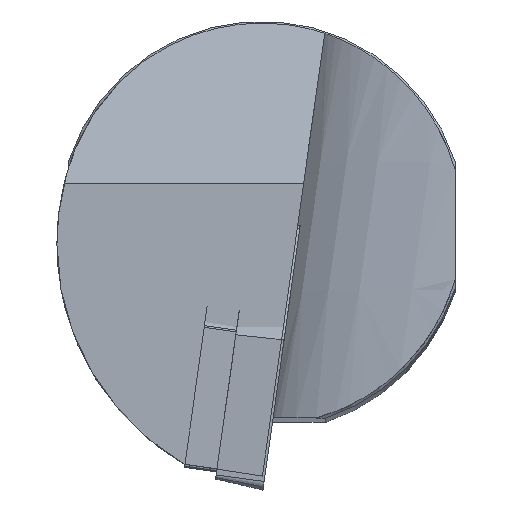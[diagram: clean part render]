
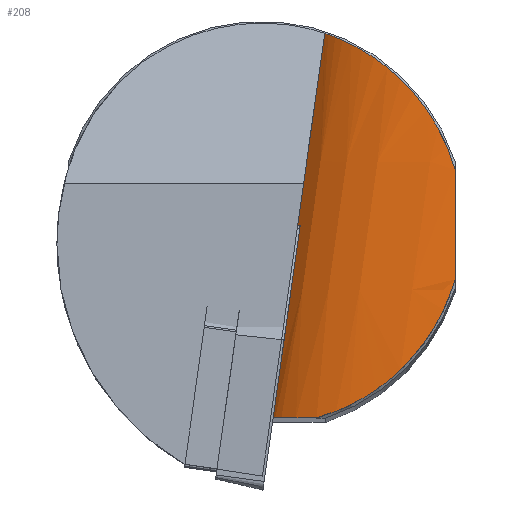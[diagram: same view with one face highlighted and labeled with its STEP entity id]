
A CAD part, top view. The second image highlights one B-rep face of the part: STEP entity #208.
In plain terms, the highlighted free-form (B-spline) face has degree [3, 3] with [4, 16] control points.
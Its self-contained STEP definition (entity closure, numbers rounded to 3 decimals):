
#95=B_SPLINE_SURFACE_WITH_KNOTS('',3,3,((#1336,#1337,#1338,#1339,#1340,#1341,
#1342,#1343,#1344,#1345,#1346,#1347,#1348,#1349,#1350,#1351),(#1352,#1353,
#1354,#1355,#1356,#1357,#1358,#1359,#1360,#1361,#1362,#1363,#1364,#1365,
#1366,#1367),(#1368,#1369,#1370,#1371,#1372,#1373,#1374,#1375,#1376,#1377,
#1378,#1379,#1380,#1381,#1382,#1383),(#1384,#1385,#1386,#1387,#1388,#1389,
#1390,#1391,#1392,#1393,#1394,#1395,#1396,#1397,#1398,#1399)),.UNSPECIFIED.,
 .F.,.F.,.F.,(4,4),(4,1,2,1,1,2,1,1,2,1,4),(0.,1.),(0.,0.14,0.25,0.28,0.42,
0.5,0.56,0.707,0.75,0.853,1.),.UNSPECIFIED.);
#105=B_SPLINE_CURVE_WITH_KNOTS('',3,(#1281,#1282,#1283,#1284,#1285,#1286,
#1287,#1288,#1289,#1290),.UNSPECIFIED.,.F.,.F.,(4,2,2,2,4),(0.,0.25,0.5,
0.75,1.),.UNSPECIFIED.);
#106=B_SPLINE_CURVE_WITH_KNOTS('',3,(#1308,#1309,#1310,#1311),.UNSPECIFIED.,
 .F.,.F.,(4,4),(0.,1.),.UNSPECIFIED.);
#107=B_SPLINE_CURVE_WITH_KNOTS('',3,(#1313,#1314,#1315,#1316,#1317,#1318,
#1319,#1320,#1321),.UNSPECIFIED.,.F.,.F.,(4,1,1,2,1,4),(0.,0.08,
0.447,0.526,0.814,1.),.UNSPECIFIED.);
#108=B_SPLINE_CURVE_WITH_KNOTS('',3,(#1323,#1324,#1325,#1326,#1327,#1328,
#1329,#1330),.UNSPECIFIED.,.F.,.F.,(4,2,2,4),(0.,0.25,0.5,1.),.UNSPECIFIED.);
#109=B_SPLINE_CURVE_WITH_KNOTS('',3,(#1332,#1333,#1334,#1335),.UNSPECIFIED.,
 .F.,.F.,(4,4),(0.,1.),.UNSPECIFIED.);
#166=FACE_OUTER_BOUND('',#293,.T.);
#208=ADVANCED_FACE('',(#166),#95,.T.);
#293=EDGE_LOOP('',(#473,#474,#475,#476,#477,#478));
#473=ORIENTED_EDGE('',*,*,#672,.T.);
#474=ORIENTED_EDGE('',*,*,#698,.T.);
#475=ORIENTED_EDGE('',*,*,#699,.F.);
#476=ORIENTED_EDGE('',*,*,#700,.T.);
#477=ORIENTED_EDGE('',*,*,#701,.F.);
#478=ORIENTED_EDGE('',*,*,#689,.T.);
#586=VERTEX_POINT('',#1233);
#587=VERTEX_POINT('',#1235);
#597=VERTEX_POINT('',#1291);
#605=VERTEX_POINT('',#1312);
#606=VERTEX_POINT('',#1322);
#607=VERTEX_POINT('',#1331);
#672=EDGE_CURVE('',#587,#586,#761,.T.);
#689=EDGE_CURVE('',#597,#587,#105,.T.);
#698=EDGE_CURVE('',#586,#605,#106,.T.);
#699=EDGE_CURVE('',#606,#605,#107,.T.);
#700=EDGE_CURVE('',#606,#607,#108,.T.);
#701=EDGE_CURVE('',#597,#607,#109,.T.);
#761=LINE('',#1234,#815);
#815=VECTOR('',#1024,1.);
#1024=DIRECTION('',(-0.139,-0.99,0.));
#1233=CARTESIAN_POINT('',(1.278,-16.201,-17.557));
#1234=CARTESIAN_POINT('',(-0.085,-25.9,-17.557));
#1235=CARTESIAN_POINT('',(6.19,18.755,-17.557));
#1281=CARTESIAN_POINT('',(19.,5.391,-40.33));
#1282=CARTESIAN_POINT('',(18.276,7.944,-39.84));
#1283=CARTESIAN_POINT('',(17.019,10.304,-39.031));
#1284=CARTESIAN_POINT('',(14.058,14.078,-36.48));
#1285=CARTESIAN_POINT('',(12.378,15.487,-34.736));
#1286=CARTESIAN_POINT('',(9.489,17.408,-30.557));
#1287=CARTESIAN_POINT('',(8.264,17.96,-28.131));
#1288=CARTESIAN_POINT('',(6.627,18.626,-23.016));
#1289=CARTESIAN_POINT('',(6.19,18.755,-20.291));
#1290=CARTESIAN_POINT('',(6.19,18.755,-17.557));
#1291=CARTESIAN_POINT('',(19.,5.391,-40.33));
#1308=CARTESIAN_POINT('',(1.278,-16.201,-17.557));
#1309=CARTESIAN_POINT('',(1.147,-17.13,-18.29));
#1310=CARTESIAN_POINT('',(1.049,-18.063,-19.024));
#1311=CARTESIAN_POINT('',(0.982,-19.,-19.755));
#1312=CARTESIAN_POINT('',(0.982,-19.,-19.755));
#1313=CARTESIAN_POINT('',(5.391,-19.,-31.874));
#1314=CARTESIAN_POINT('',(5.185,-19.,-31.579));
#1315=CARTESIAN_POINT('',(4.074,-19.,-29.909));
#1316=CARTESIAN_POINT('',(3.012,-19.,-27.807));
#1317=CARTESIAN_POINT('',(2.342,-19.,-25.976));
#1318=CARTESIAN_POINT('',(1.824,-19.,-24.462));
#1319=CARTESIAN_POINT('',(1.315,-19.,-22.483));
#1320=CARTESIAN_POINT('',(1.05,-19.,-20.519));
#1321=CARTESIAN_POINT('',(0.982,-19.,-19.755));
#1322=CARTESIAN_POINT('',(5.391,-19.,-31.874));
#1323=CARTESIAN_POINT('',(5.391,-19.,-31.874));
#1324=CARTESIAN_POINT('',(6.493,-18.687,-33.392));
#1325=CARTESIAN_POINT('',(7.771,-18.22,-34.754));
#1326=CARTESIAN_POINT('',(10.457,-16.823,-37.055));
#1327=CARTESIAN_POINT('',(11.863,-15.888,-37.996));
#1328=CARTESIAN_POINT('',(15.785,-12.378,-40.156));
#1329=CARTESIAN_POINT('',(17.964,-9.041,-40.76));
#1330=CARTESIAN_POINT('',(19.,-5.391,-40.957));
#1331=CARTESIAN_POINT('',(19.,-5.391,-40.957));
#1332=CARTESIAN_POINT('',(19.,5.391,-40.33));
#1333=CARTESIAN_POINT('',(19.,1.798,-40.558));
#1334=CARTESIAN_POINT('',(19.,-1.796,-40.767));
#1335=CARTESIAN_POINT('',(19.,-5.391,-40.957));
#1336=CARTESIAN_POINT('',(7.057,24.92,-17.557));
#1337=CARTESIAN_POINT('',(7.057,24.92,-19.024));
#1338=CARTESIAN_POINT('',(7.293,24.92,-21.729));
#1339=CARTESIAN_POINT('',(7.996,24.92,-24.462));
#1340=CARTESIAN_POINT('',(8.514,24.92,-25.976));
#1341=CARTESIAN_POINT('',(9.185,24.92,-27.807));
#1342=CARTESIAN_POINT('',(10.508,24.92,-30.426));
#1343=CARTESIAN_POINT('',(12.019,24.92,-32.536));
#1344=CARTESIAN_POINT('',(13.056,24.92,-33.82));
#1345=CARTESIAN_POINT('',(14.668,24.92,-35.646));
#1346=CARTESIAN_POINT('',(16.915,24.92,-37.547));
#1347=CARTESIAN_POINT('',(18.752,24.92,-38.729));
#1348=CARTESIAN_POINT('',(20.188,24.92,-39.592));
#1349=CARTESIAN_POINT('',(22.708,24.92,-40.867));
#1350=CARTESIAN_POINT('',(25.305,24.92,-41.677));
#1351=CARTESIAN_POINT('',(26.807,24.92,-42.));
#1352=CARTESIAN_POINT('',(4.676,7.98,-17.557));
#1353=CARTESIAN_POINT('',(4.676,7.98,-19.024));
#1354=CARTESIAN_POINT('',(4.912,7.98,-21.729));
#1355=CARTESIAN_POINT('',(5.616,7.98,-24.462));
#1356=CARTESIAN_POINT('',(6.134,7.98,-25.976));
#1357=CARTESIAN_POINT('',(6.804,7.98,-27.807));
#1358=CARTESIAN_POINT('',(8.127,7.98,-30.426));
#1359=CARTESIAN_POINT('',(9.638,7.98,-32.536));
#1360=CARTESIAN_POINT('',(10.675,7.98,-33.82));
#1361=CARTESIAN_POINT('',(12.288,7.98,-35.646));
#1362=CARTESIAN_POINT('',(14.534,7.98,-37.547));
#1363=CARTESIAN_POINT('',(16.371,7.98,-38.729));
#1364=CARTESIAN_POINT('',(17.807,7.98,-39.592));
#1365=CARTESIAN_POINT('',(20.327,7.98,-40.867));
#1366=CARTESIAN_POINT('',(22.924,7.98,-41.677));
#1367=CARTESIAN_POINT('',(24.426,7.98,-42.));
#1368=CARTESIAN_POINT('',(2.295,-8.96,-17.557));
#1369=CARTESIAN_POINT('',(2.295,-8.96,-19.024));
#1370=CARTESIAN_POINT('',(2.531,-8.96,-21.729));
#1371=CARTESIAN_POINT('',(3.235,-8.96,-24.462));
#1372=CARTESIAN_POINT('',(3.753,-8.96,-25.976));
#1373=CARTESIAN_POINT('',(4.423,-8.96,-27.807));
#1374=CARTESIAN_POINT('',(5.746,-8.96,-30.426));
#1375=CARTESIAN_POINT('',(7.257,-8.96,-32.536));
#1376=CARTESIAN_POINT('',(8.294,-8.96,-33.82));
#1377=CARTESIAN_POINT('',(9.907,-8.96,-35.646));
#1378=CARTESIAN_POINT('',(12.154,-8.96,-37.547));
#1379=CARTESIAN_POINT('',(13.99,-8.96,-38.729));
#1380=CARTESIAN_POINT('',(15.426,-8.96,-39.592));
#1381=CARTESIAN_POINT('',(17.947,-8.96,-40.867));
#1382=CARTESIAN_POINT('',(20.543,-8.96,-41.677));
#1383=CARTESIAN_POINT('',(22.045,-8.96,-42.));
#1384=CARTESIAN_POINT('',(-0.085,-25.9,-17.557));
#1385=CARTESIAN_POINT('',(-0.085,-25.9,-19.024));
#1386=CARTESIAN_POINT('',(0.151,-25.9,-21.729));
#1387=CARTESIAN_POINT('',(0.854,-25.9,-24.462));
#1388=CARTESIAN_POINT('',(1.372,-25.9,-25.976));
#1389=CARTESIAN_POINT('',(2.042,-25.9,-27.807));
#1390=CARTESIAN_POINT('',(3.366,-25.9,-30.426));
#1391=CARTESIAN_POINT('',(4.877,-25.9,-32.536));
#1392=CARTESIAN_POINT('',(5.914,-25.9,-33.82));
#1393=CARTESIAN_POINT('',(7.526,-25.9,-35.646));
#1394=CARTESIAN_POINT('',(9.773,-25.9,-37.547));
#1395=CARTESIAN_POINT('',(11.609,-25.9,-38.729));
#1396=CARTESIAN_POINT('',(13.046,-25.9,-39.592));
#1397=CARTESIAN_POINT('',(15.566,-25.9,-40.867));
#1398=CARTESIAN_POINT('',(18.163,-25.9,-41.677));
#1399=CARTESIAN_POINT('',(19.665,-25.9,-42.));
